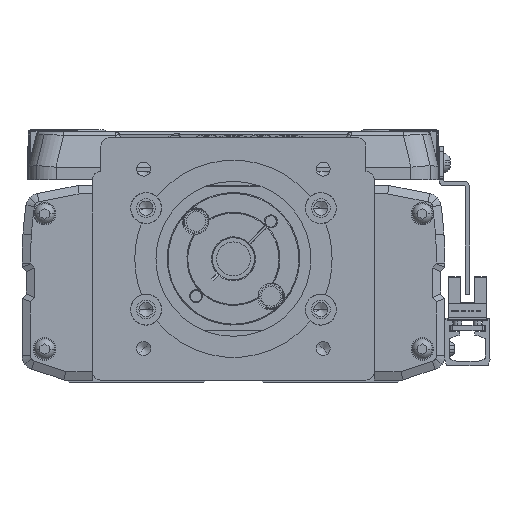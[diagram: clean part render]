
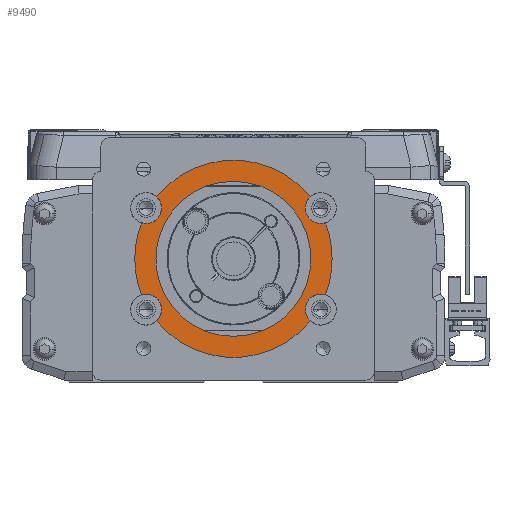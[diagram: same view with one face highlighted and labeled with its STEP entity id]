
A CAD part, left-side view. The second image highlights one B-rep face of the part: STEP entity #9490.
In plain terms, the highlighted planar face has unit normal (-1, 0, 0).
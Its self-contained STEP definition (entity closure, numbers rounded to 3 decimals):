
#9490=ADVANCED_FACE('',(#19362,#19363),#19364,.F.);
#19362=FACE_OUTER_BOUND('',#31092,.T.);
#19363=FACE_BOUND('',#31093,.T.);
#19364=PLANE('',#31094);
#31092=EDGE_LOOP('',(#58094,#58095,#58096,#58097,#58098,#58099,#58100,#58101,#58102,#58103,#58104,#58105,#58106,#58107));
#31093=EDGE_LOOP('',(#58108,#58109));
#31094=AXIS2_PLACEMENT_3D('',#58110,#58111,#58112);
#58094=ORIENTED_EDGE('',*,*,#62788,.F.);
#58095=ORIENTED_EDGE('',*,*,#72271,.T.);
#58096=ORIENTED_EDGE('',*,*,#63684,.T.);
#58097=ORIENTED_EDGE('',*,*,#68842,.F.);
#58098=ORIENTED_EDGE('',*,*,#71087,.F.);
#58099=ORIENTED_EDGE('',*,*,#71379,.T.);
#58100=ORIENTED_EDGE('',*,*,#63884,.F.);
#58101=ORIENTED_EDGE('',*,*,#62413,.F.);
#58102=ORIENTED_EDGE('',*,*,#72892,.T.);
#58103=ORIENTED_EDGE('',*,*,#72893,.T.);
#58104=ORIENTED_EDGE('',*,*,#70933,.F.);
#58105=ORIENTED_EDGE('',*,*,#69570,.F.);
#58106=ORIENTED_EDGE('',*,*,#71084,.T.);
#58107=ORIENTED_EDGE('',*,*,#68790,.F.);
#58108=ORIENTED_EDGE('',*,*,#67157,.F.);
#58109=ORIENTED_EDGE('',*,*,#71971,.F.);
#58110=CARTESIAN_POINT('',(-69.,0.,0.));
#58111=DIRECTION('',(1.0,0.,0.));
#58112=DIRECTION('',(0.,1.0,0.));
#62413=EDGE_CURVE('',#74037,#74039,#74040,.T.);
#62788=EDGE_CURVE('',#74718,#74720,#74721,.T.);
#63684=EDGE_CURVE('',#76305,#76307,#76309,.T.);
#63884=EDGE_CURVE('',#74039,#76651,#76652,.T.);
#67157=EDGE_CURVE('',#82050,#82046,#82052,.T.);
#68790=EDGE_CURVE('',#74720,#84481,#84482,.T.);
#68842=EDGE_CURVE('',#84554,#76307,#84556,.T.);
#69570=EDGE_CURVE('',#85569,#85571,#85572,.T.);
#70933=EDGE_CURVE('',#85571,#87411,#87412,.T.);
#71084=EDGE_CURVE('',#85569,#84481,#87585,.T.);
#71087=EDGE_CURVE('',#87587,#84554,#87589,.T.);
#71379=EDGE_CURVE('',#87587,#76651,#87953,.T.);
#71971=EDGE_CURVE('',#82046,#82050,#88646,.T.);
#72271=EDGE_CURVE('',#74718,#76305,#88973,.T.);
#72892=EDGE_CURVE('',#74037,#89636,#89637,.T.);
#72893=EDGE_CURVE('',#89636,#87411,#89638,.T.);
#74037=VERTEX_POINT('',#91012);
#74039=VERTEX_POINT('',#91015);
#74040=CIRCLE('',#91016,5.5);
#74718=VERTEX_POINT('',#91883);
#74720=VERTEX_POINT('',#91886);
#74721=CIRCLE('',#91887,5.5);
#76305=VERTEX_POINT('',#93947);
#76307=VERTEX_POINT('',#93950);
#76309=CIRCLE('',#93953,35.0);
#76651=VERTEX_POINT('',#94397);
#76652=CIRCLE('',#94398,5.5);
#82046=VERTEX_POINT('',#101844);
#82050=VERTEX_POINT('',#101849);
#82052=CIRCLE('',#101852,27.5);
#84481=VERTEX_POINT('',#105482);
#84482=CIRCLE('',#105483,5.5);
#84554=VERTEX_POINT('',#105573);
#84556=CIRCLE('',#105576,5.5);
#85569=VERTEX_POINT('',#106890);
#85571=VERTEX_POINT('',#106893);
#85572=CIRCLE('',#106894,5.5);
#87411=VERTEX_POINT('',#109491);
#87412=CIRCLE('',#109492,5.5);
#87585=CIRCLE('',#109729,35.0);
#87587=VERTEX_POINT('',#109731);
#87589=CIRCLE('',#109734,5.5);
#87953=CIRCLE('',#110248,35.0);
#88646=CIRCLE('',#111225,27.5);
#88973=CIRCLE('',#111671,35.0);
#89636=VERTEX_POINT('',#112551);
#89637=CIRCLE('',#112552,35.0);
#89638=CIRCLE('',#112553,35.0);
#91012=CARTESIAN_POINT('',(-69.,-32.6,-12.738));
#91015=CARTESIAN_POINT('',(-69.,-25.5,-18.));
#91016=AXIS2_PLACEMENT_3D('',#113709,#113710,#113711);
#91883=CARTESIAN_POINT('',(-69.,32.6,12.738));
#91886=CARTESIAN_POINT('',(-69.,25.5,18.));
#91887=AXIS2_PLACEMENT_3D('',#114312,#114313,#114314);
#93947=CARTESIAN_POINT('',(-69.,35.,0.));
#93950=CARTESIAN_POINT('',(-69.,32.6,-12.738));
#93953=AXIS2_PLACEMENT_3D('',#115785,#115786,#115787);
#94397=CARTESIAN_POINT('',(-69.,-27.223,-21.998));
#94398=AXIS2_PLACEMENT_3D('',#116064,#116065,#116066);
#101844=CARTESIAN_POINT('',(-69.,27.5,0.));
#101849=CARTESIAN_POINT('',(-69.,-27.5,0.));
#101852=AXIS2_PLACEMENT_3D('',#120647,#120648,#120649);
#105482=CARTESIAN_POINT('',(-69.,27.223,21.998));
#105483=AXIS2_PLACEMENT_3D('',#122862,#122863,#122864);
#105573=CARTESIAN_POINT('',(-69.,25.5,-18.));
#105576=AXIS2_PLACEMENT_3D('',#122941,#122942,#122943);
#106890=CARTESIAN_POINT('',(-69.,-27.223,21.998));
#106893=CARTESIAN_POINT('',(-69.,-25.5,18.));
#106894=AXIS2_PLACEMENT_3D('',#123963,#123964,#123965);
#109491=CARTESIAN_POINT('',(-69.,-32.6,12.738));
#109492=AXIS2_PLACEMENT_3D('',#125800,#125801,#125802);
#109729=AXIS2_PLACEMENT_3D('',#125960,#125961,#125962);
#109731=CARTESIAN_POINT('',(-69.,27.223,-21.998));
#109734=AXIS2_PLACEMENT_3D('',#125964,#125965,#125966);
#110248=AXIS2_PLACEMENT_3D('',#126287,#126288,#126289);
#111225=AXIS2_PLACEMENT_3D('',#126885,#126886,#126887);
#111671=AXIS2_PLACEMENT_3D('',#127206,#127207,#127208);
#112551=CARTESIAN_POINT('',(-69.,-35.,0.));
#112552=AXIS2_PLACEMENT_3D('',#127718,#127719,#127720);
#112553=AXIS2_PLACEMENT_3D('',#127721,#127722,#127723);
#113709=CARTESIAN_POINT('',(-69.,-31.,-18.));
#113710=DIRECTION('',(-1.0,0.,0.));
#113711=DIRECTION('',(0.,-1.0,0.));
#114312=CARTESIAN_POINT('',(-69.,31.,18.));
#114313=DIRECTION('',(-1.0,0.,0.));
#114314=DIRECTION('',(0.,1.0,0.));
#115785=CARTESIAN_POINT('',(-69.,0.,0.));
#115786=DIRECTION('',(-1.0,0.,0.));
#115787=DIRECTION('',(0.,1.0,0.));
#116064=CARTESIAN_POINT('',(-69.,-31.,-18.));
#116065=DIRECTION('',(-1.0,0.,0.));
#116066=DIRECTION('',(0.,-1.0,0.));
#120647=CARTESIAN_POINT('',(-69.,0.,0.));
#120648=DIRECTION('',(-1.0,0.,0.));
#120649=DIRECTION('',(0.,1.0,0.));
#122862=CARTESIAN_POINT('',(-69.,31.,18.));
#122863=DIRECTION('',(-1.0,0.,0.));
#122864=DIRECTION('',(0.,1.0,0.));
#122941=CARTESIAN_POINT('',(-69.,31.,-18.));
#122942=DIRECTION('',(-1.0,0.,0.));
#122943=DIRECTION('',(0.,1.0,0.));
#123963=CARTESIAN_POINT('',(-69.,-31.,18.));
#123964=DIRECTION('',(-1.0,0.,0.));
#123965=DIRECTION('',(0.,-1.0,0.));
#125800=CARTESIAN_POINT('',(-69.,-31.,18.));
#125801=DIRECTION('',(-1.0,0.,0.));
#125802=DIRECTION('',(0.,-1.0,0.));
#125960=CARTESIAN_POINT('',(-69.,0.,0.));
#125961=DIRECTION('',(-1.0,0.,0.));
#125962=DIRECTION('',(0.,1.0,0.));
#125964=CARTESIAN_POINT('',(-69.,31.,-18.));
#125965=DIRECTION('',(-1.0,0.,0.));
#125966=DIRECTION('',(0.,1.0,0.));
#126287=CARTESIAN_POINT('',(-69.,0.,0.));
#126288=DIRECTION('',(-1.0,0.,0.));
#126289=DIRECTION('',(0.,1.0,0.));
#126885=CARTESIAN_POINT('',(-69.,0.,0.));
#126886=DIRECTION('',(-1.0,0.,0.));
#126887=DIRECTION('',(0.,1.0,0.));
#127206=CARTESIAN_POINT('',(-69.,0.,0.));
#127207=DIRECTION('',(-1.0,0.,0.));
#127208=DIRECTION('',(0.,1.0,0.));
#127718=CARTESIAN_POINT('',(-69.,0.,0.));
#127719=DIRECTION('',(-1.0,0.,0.));
#127720=DIRECTION('',(0.,1.0,0.));
#127721=CARTESIAN_POINT('',(-69.,0.,0.));
#127722=DIRECTION('',(-1.0,0.,0.));
#127723=DIRECTION('',(0.,1.0,0.));
